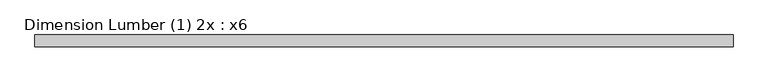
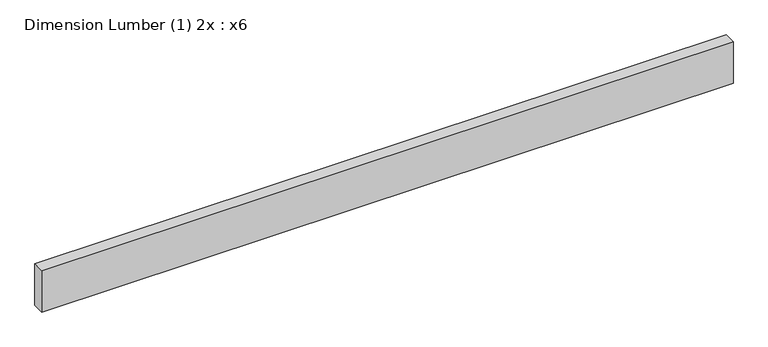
"""IFC4 building model written with IfcOpenShell, lengths in millimetres: beam geometry, Dimension Lumber (1) 2x : x6."""

from ifc_helpers import new_model, si_unit, frame, origin, place, context, project, spatial, polyline, outline, extrude, source, transform, mapped, element, save


def dimension_lumber_1_2x_x6_88afd8e4(model_context):
    return source(origin(), model_context, "Body", "SweptSolid", [
        extrude(outline(polyline([(1104.9, 19.05), (1104.9, -19.05), (-1104.9, -19.05), (-1104.9, 19.05), (1104.9, 19.05)])), frame((0.0, 0.0, -69.85), z_axis=(0.0, 0.0, 1.0), x_axis=(1.0, 0.0, 0.0)), (0.0, 0.0, 1.0), 139.7),
    ])


if __name__ == "__main__":
    model = new_model("IFC4")
    model_context = context("Model", 3, world=origin())
    ifc_project = project(units=[si_unit("LENGTHUNIT", "METRE", prefix="MILLI")], contexts=[model_context])
    site = spatial("IfcSite", under=ifc_project)
    building = spatial("IfcBuilding", under=site)
    placement = place(None, origin())
    dimension_lumber_1_2x_x6_shape = dimension_lumber_1_2x_x6_88afd8e4(model_context)
    element("IfcBeam", 1, ObjectType="Dimension Lumber (1) 2x : x6", at=placement, inside=building, context=model_context, shape_type="MappedRepresentation", body=[
        mapped(dimension_lumber_1_2x_x6_shape, transform((0.0, 0.0, 0.0), x_axis=(1.0, 0.0, 0.0), y_axis=(0.0, 1.0, 0.0), z_axis=(0.0, 0.0, 1.0))),
    ])
    save(model, "model.ifc")
